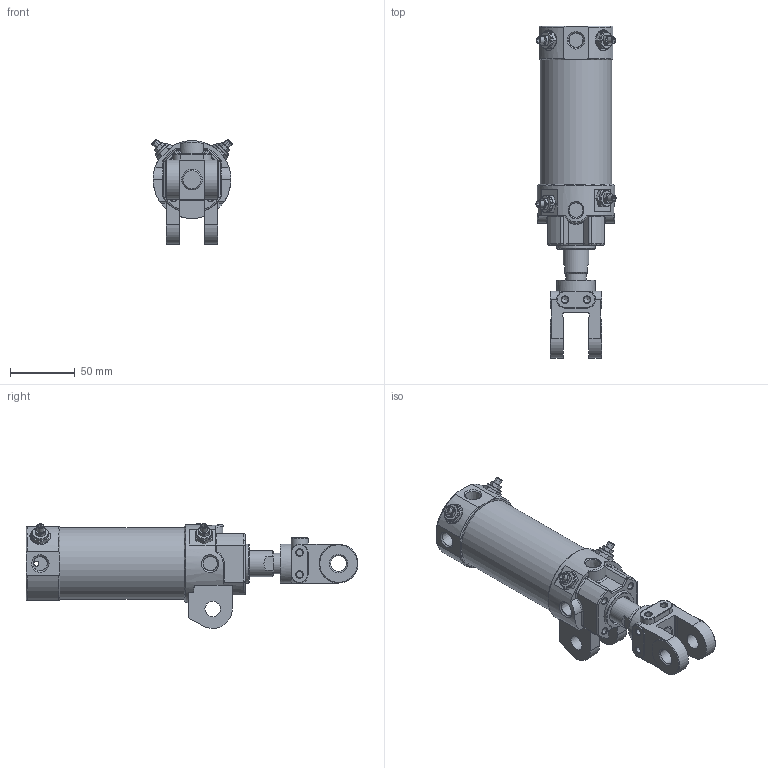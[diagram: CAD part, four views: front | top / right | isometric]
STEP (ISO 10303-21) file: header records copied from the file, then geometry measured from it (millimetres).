
FILE_DESCRIPTION((''),'2;1');
FILE_NAME('I:\3D電子目錄\氣缸\DCK\DCK\DCK-1B-50x50-Y.stp','2008-02-26T14:53:31',('Administrator'),(''),'Autodesk Inventor 11','Autodesk Inventor 11','');
FILE_SCHEMA(('AUTOMOTIVE_DESIGN { 1 0 10303 214 1 1 1 1 }'));
Length unit declared in the file: millimetre
Products named in the file (6): DCK-1B-50-Y; 緩衝針; 緩衝針-1; 緩衝針-201; 緩衝針-3
Assembly tree (8 placements, depth 3):
  DCK-1B-50-Y
    DCK-1B-50-Y
    緩衝針  x4
      緩衝針-1
      緩衝針-201
      緩衝針-3
Bounding box: 61.76 x 256 x 80.87 mm (x, y, z)
Volume: 267010.6 mm3; surface area: 103466.1 mm2
Topology: 15 solids, 15 shells, 647 faces, 1457 edges, 908 vertices
Faces by surface type: plane 240, cylinder 188, cone 143, bspline 40, torus 36
Full cylindrical faces by diameter (mm): 2 x2, 3 x4, 3.8 x2, 4 x6, 4.6 x4, 4.917 x2, 5 x8, 5.1 x4, 5.2 x12, 5.5 x4, 7.25 x1, 7.9 x4, 8 x2, 10.3 x1, 11.3 x1, 12 x6, 12.8 x4, 16 x3, 20 x1, 21 x1, 22 x2, 23 x1, 24.7 x1, 26 x1, 27 x1, 28 x1, 29 x1, 30 x4, 33 x1, 49.5 x1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
Entity records: 14021 total; most frequent: CARTESIAN_POINT 5596, DIRECTION 1727, ORIENTED_EDGE 1528, EDGE_CURVE 764, AXIS2_PLACEMENT_3D 739, EDGE_LOOP 608, VERTEX_POINT 550, FACE_OUTER_BOUND 398
